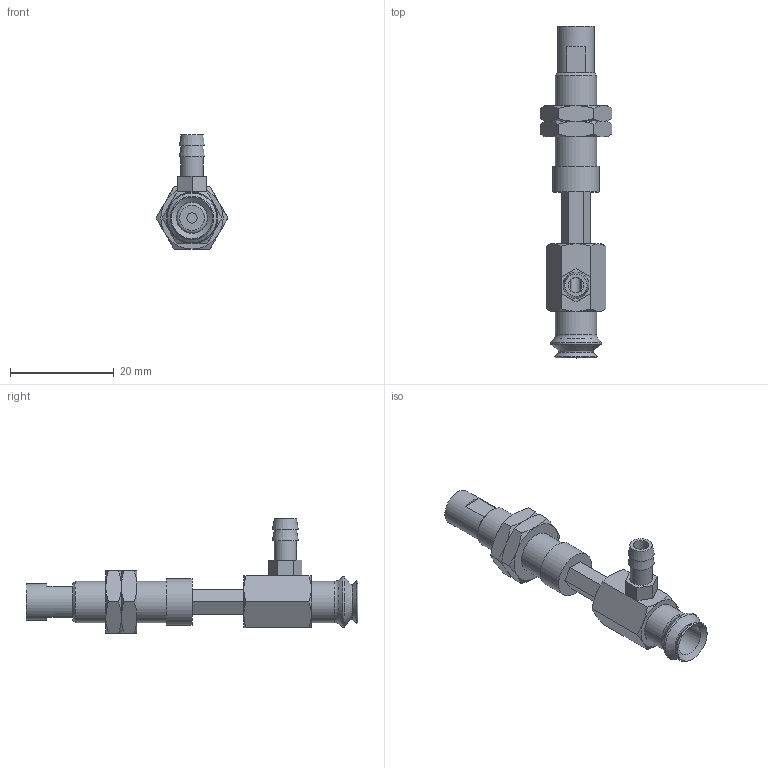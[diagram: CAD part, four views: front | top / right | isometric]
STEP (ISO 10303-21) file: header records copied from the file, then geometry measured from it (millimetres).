
FILE_DESCRIPTION(('STEP AP203'),'1');
FILE_NAME('-T.stp','2025-04-24T05:55:42',(' '),(' '),'Spatial InterOp 3D',' ',' ');
FILE_SCHEMA(('CONFIG_CONTROL_DESIGN'));
Length unit declared in the file: millimetre
Products named in the file (7): BNABPJYH-8-10-※-T; CONNECTOR_H-8-10; NAPJH-8-10-NUT; NAPJTH-8-10-FBODY; NAPJTH-8-10-MBODY; BPJG-8-※; T
Assembly tree (7 placements, depth 2):
  BNABPJYH-8-10-※-T
    CONNECTOR_H-8-10
    NAPJH-8-10-NUT  x2
    NAPJTH-8-10-FBODY
    NAPJTH-8-10-MBODY
    BPJG-8-※
    T
Bounding box: 13.86 x 64 x 22 mm (x, y, z)
Volume: 3630 mm3; surface area: 4657.8 mm2
Topology: 7 solids, 7 shells, 154 faces, 331 edges, 202 vertices
Faces by surface type: plane 73, cone 55, cylinder 17, torus 9
Full cylindrical faces by diameter (mm): 2 x1, 3 x1, 4 x2, 4.134 x2, 4.3 x1, 5 x2, 6 x2, 7 x1, 7.188 x2, 8 x2, 9 x1
Entity records: 3866 total; most frequent: CARTESIAN_POINT 889, DIRECTION 546, ORIENTED_EDGE 470, EDGE_CURVE 235, AXIS2_PLACEMENT_3D 226, EDGE_LOOP 194, VERTEX_POINT 167, FACE_OUTER_BOUND 156
